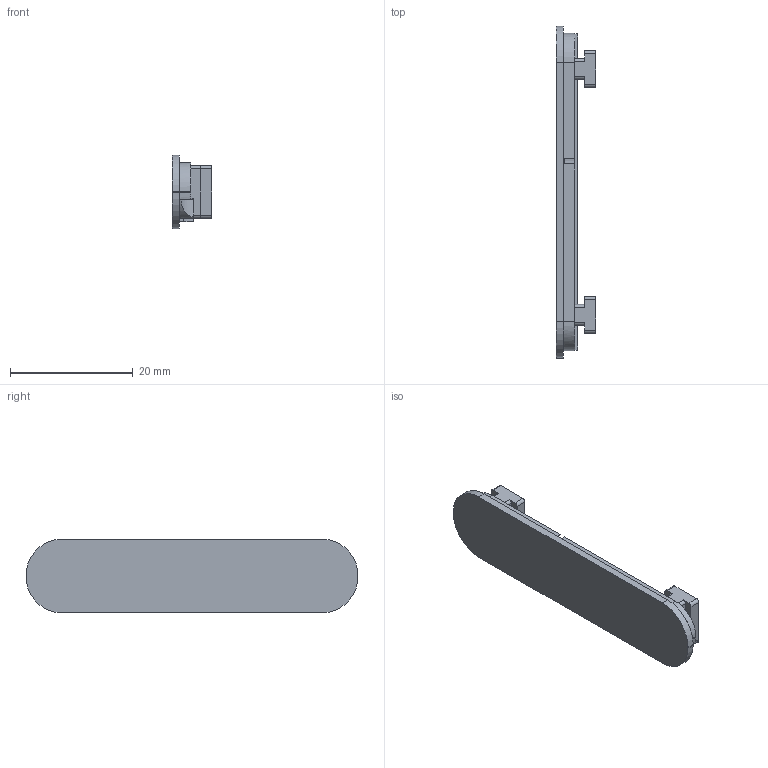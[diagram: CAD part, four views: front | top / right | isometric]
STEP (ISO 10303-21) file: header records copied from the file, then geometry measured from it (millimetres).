
FILE_DESCRIPTION(/* description */ (''),/* implementation_level */ '2;1');
FILE_NAME(/* name */ 'P05.step',/* time_stamp */ '2026-09-15T15:14:59-07:00',/* author */ (''),/* organization */ (''),/* preprocessor_version */ 'ST-DEVELOPER v20.1',/* originating_system */ 'Autodesk Translation Framework v15.8.0.0',/* authorisation */ '');
FILE_SCHEMA (('AUTOMOTIVE_DESIGN { 1 0 10303 214 3 1 1 }'));
Length unit declared in the file: millimetre
Products named in the file (1): 2026-09-15-15-14-58-977
Bounding box: 6.5 x 54 x 12 mm (x, y, z)
Volume: 1847.8 mm3; surface area: 1931.9 mm2
Topology: 1 solids, 1 shells, 84 faces, 238 edges, 158 vertices
Faces by surface type: plane 53, cylinder 31
Entity records: 2829 total; most frequent: CARTESIAN_POINT 543, DIRECTION 478, ORIENTED_EDGE 476, EDGE_CURVE 238, LINE 164, VECTOR 164, VERTEX_POINT 158, AXIS2_PLACEMENT_3D 157
